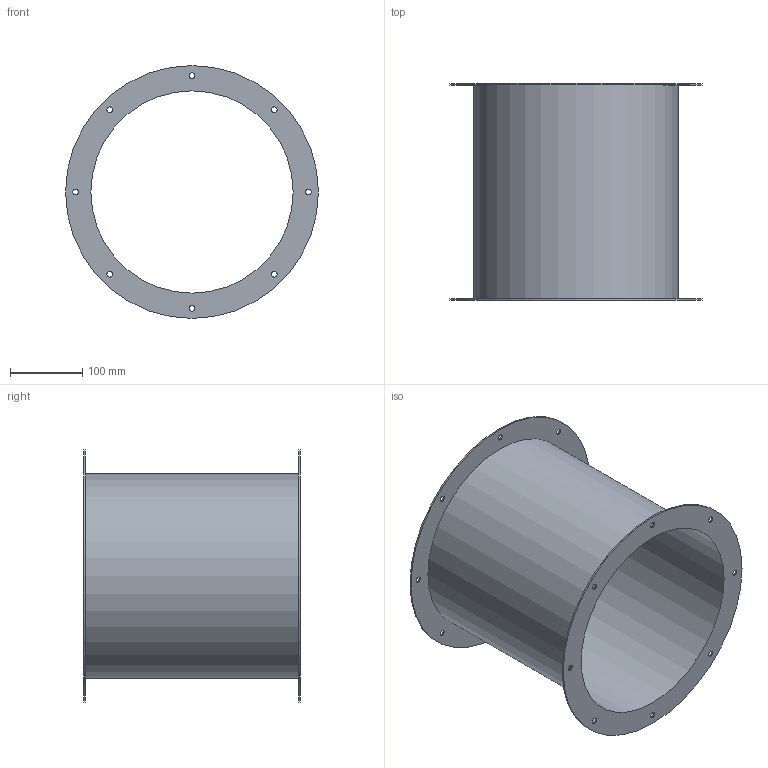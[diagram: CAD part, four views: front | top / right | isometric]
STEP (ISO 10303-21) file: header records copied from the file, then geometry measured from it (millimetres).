
FILE_DESCRIPTION(/* description */ (''),/* implementation_level */ '2;1');
FILE_NAME(/* name */ 'Z:\Output\VR 280-01403-001.stp',/* time_stamp */ '2017-05-05T18:42:44+02:00',/* author */ ('jayeshpanchal'),/* organization */ (''),/* preprocessor_version */ 'ST-DEVELOPER v16.5',/* originating_system */ 'Autodesk Inventor 2017',/* authorisation */ '');
FILE_SCHEMA (('AUTOMOTIVE_DESIGN { 1 0 10303 214 3 1 1 }'));
Length unit declared in the file: millimetre
Products named in the file (1): VR-1
Bounding box: 350 x 300 x 350 mm (x, y, z)
Volume: 661405.8 mm3; surface area: 666583.1 mm2
Topology: 1 solids, 1 shells, 24 faces, 60 edges, 40 vertices
Faces by surface type: cylinder 20, plane 4
Full cylindrical faces by diameter (mm): 8 x16, 280 x1, 284 x1, 350 x2
Entity records: 742 total; most frequent: DIRECTION 130, CARTESIAN_POINT 105, EDGE_LOOP 80, ORIENTED_EDGE 80, AXIS2_PLACEMENT_3D 65, FACE_BOUND 56, CIRCLE 40, VERTEX_POINT 40
